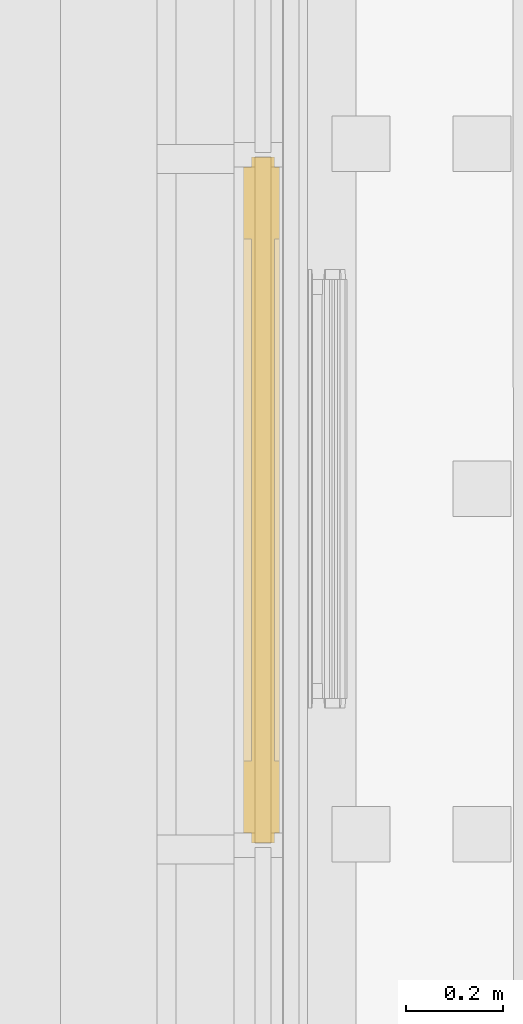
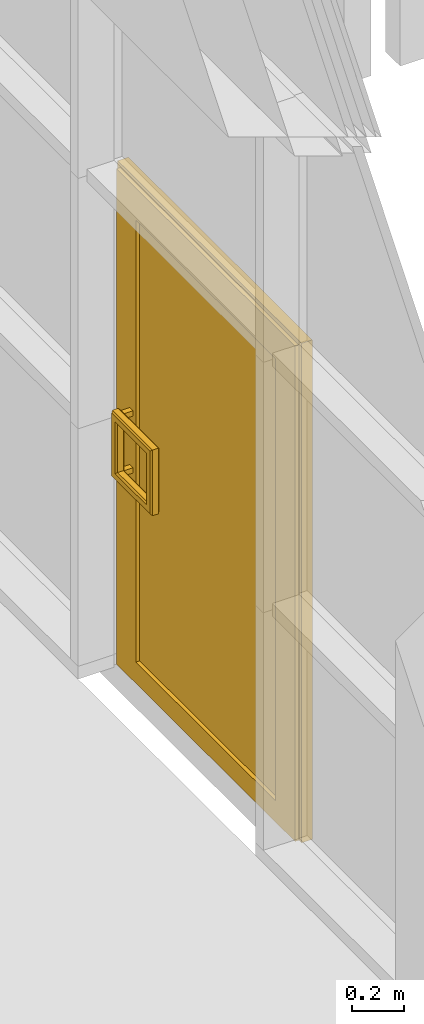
# One storey, part 252 of 260: 1 door, 1 element without a shape of its own.
"""IFC2X3 building model written with IfcOpenShell, lengths in millimetres."""

import ifcopenshell
import ifcopenshell.guid

model = None  # the IFC model being written
_history = None  # IfcOwnerHistory: only IFC2X3 demands one
_inside = {}  # id of a spatial element -> (the spatial element, [elements in it])
_under = {}  # id of a project, library or spatial element -> (it, [spatial elements below it])
_declared = {}  # id of a project -> (the project, [libraries it declares])
_typed = {}  # id of a type object -> (the type object, [elements of that type])
_made_of = {}  # id of a material, layer set ... -> (it, [elements and type objects made of it])


def new_model(schema):
    """Start an empty IFC model of exactly this schema.

    Asked for "IFC4X3", IfcOpenShell would pick the latest addendum, in which some entities
    have other attributes; the version numbers below select the first issue.
    IFC2X3 requires an IfcOwnerHistory on every rooted entity: one is made here for all.
    """
    global model, _history
    if schema == "IFC4X3":
        model = ifcopenshell.file(schema_version=(4, 3, 0, 0))
    else:
        model = ifcopenshell.file(schema=schema)
    _inside.clear()
    _under.clear()
    _declared.clear()
    _typed.clear()
    _made_of.clear()
    _history = None
    if model.schema == "IFC2X3":
        org = make("IfcOrganization", Name="unknown")
        user = make(
            "IfcPersonAndOrganization",
            ThePerson=make("IfcPerson", FamilyName="unknown"),
            TheOrganization=org,
        )
        app = make(
            "IfcApplication",
            ApplicationDeveloper=org,
            Version="unknown",
            ApplicationFullName="unknown",
            ApplicationIdentifier="unknown",
        )
        _history = make(
            "IfcOwnerHistory",
            OwningUser=user,
            OwningApplication=app,
            ChangeAction="ADDED",
            CreationDate=0,
        )
    return model


def make(cls, **values):
    """One entity of the class cls with the attributes given. An attribute that is None is left unset."""
    return model.create_entity(
        cls, **{name: value for name, value in values.items() if value is not None}
    )


def entity(cls, *values):
    """Any entity or typed value of the class cls, its attributes in the order of the schema. None: left unset."""
    e = model.create_entity(cls)
    for i, value in enumerate(values):
        if value is not None:
            e[i] = value
    return e


def rooted(cls, **values):
    """An entity with a GlobalId (a new one), such as an element, a storey or a relation."""
    return make(cls, GlobalId=ifcopenshell.guid.new(), OwnerHistory=_history, **values)


def si_unit(unit_type, name, prefix=None):
    """IfcSIUnit, for example si_unit("LENGTHUNIT", "METRE", prefix="MILLI")."""
    return make("IfcSIUnit", UnitType=unit_type, Prefix=prefix, Name=name)


def converted_unit(unit_type, name, factor, base, dimensions=None, offset=None):
    """IfcConversionBasedUnit, such as the inch: factor (a typed value) times the base unit."""
    return make(
        "IfcConversionBasedUnit"
        if offset is None
        else "IfcConversionBasedUnitWithOffset",
        ConversionOffset=offset,
        Dimensions=None
        if dimensions is None
        else entity("IfcDimensionalExponents", *dimensions),
        UnitType=unit_type,
        Name=name,
        ConversionFactor=make(
            "IfcMeasureWithUnit", ValueComponent=factor, UnitComponent=base
        ),
    )


def derived_unit(unit_type, elements):
    """IfcDerivedUnit: a product of units, each with its exponent."""
    return make(
        "IfcDerivedUnit",
        Elements=[
            make("IfcDerivedUnitElement", Unit=unit, Exponent=power)
            for unit, power in elements
        ],
        UnitType=unit_type,
    )


def money_unit(currency):
    """IfcMonetaryUnit."""
    return make("IfcMonetaryUnit", Currency=currency)


def assignment(units):
    """IfcUnitAssignment: the units of a project."""
    return None if units is None else make("IfcUnitAssignment", Units=units)


def point(xyz):
    """IfcCartesianPoint."""
    return None if xyz is None else make("IfcCartesianPoint", Coordinates=xyz)


def direction(xyz):
    """IfcDirection."""
    return None if xyz is None else make("IfcDirection", DirectionRatios=xyz)


def frame(location, z_axis=None, x_axis=None):
    """IfcAxis2Placement3D, a coordinate frame: its origin and axes. An axis left out is left unset."""
    return make(
        "IfcAxis2Placement3D",
        Location=point(location),
        Axis=direction(z_axis),
        RefDirection=direction(x_axis),
    )


def origin_with_axes():
    """The frame at (0, 0, 0) with the z axis (0, 0, 1) and the x axis (1, 0, 0) written out."""
    return frame((0.0, 0.0, 0.0), z_axis=(0.0, 0.0, 1.0), x_axis=(1.0, 0.0, 0.0))


def place(relative_to, where):
    """IfcLocalPlacement: puts the frame where relative to a parent placement (None: the world)."""
    return make(
        "IfcLocalPlacement", PlacementRelTo=relative_to, RelativePlacement=where
    )


def context(
    kind, dimensions, precision=None, world=None, true_north=None, identifier=None
):
    """IfcGeometricRepresentationContext, for example the 3D "Model" context."""
    return make(
        "IfcGeometricRepresentationContext",
        ContextIdentifier=identifier,
        ContextType=kind,
        CoordinateSpaceDimension=dimensions,
        Precision=precision,
        WorldCoordinateSystem=world,
        TrueNorth=true_north,
    )


def subcontext(parent, identifier, kind, view, scale=None):
    """IfcGeometricRepresentationSubContext, for example "Body" below "Model"."""
    return make(
        "IfcGeometricRepresentationSubContext",
        ContextIdentifier=identifier,
        ContextType=kind,
        ParentContext=parent,
        TargetScale=scale,
        TargetView=view,
    )


def project(units=None, contexts=None):
    """IfcProject with its units and contexts."""
    return rooted(
        "IfcProject",
        Name="project",
        RepresentationContexts=contexts,
        UnitsInContext=assignment(units),
    )


def spatial(cls, under=None, at=None, **own):
    """A site, building, storey or space (cls), placed at a placement, below another one or the project."""
    s = rooted(cls, ObjectPlacement=at, **own)
    if under is not None:
        _under.setdefault(under.id(), (under, []))[1].append(s)
    return s


def faces_of(points, faces, orient=None, outer=None):
    """IfcFace entities. A face is a list of loops; a loop is a list of indices into points, from 0.

    orient and outer hold one flag for each loop. By default every Orientation is true, the
    first loop of a face is its IfcFaceOuterBound and the others are IfcFaceBound.
    """
    made = []
    for i, loops in enumerate(faces):
        bounds = []
        for j, loop in enumerate(loops):
            is_outer = j == 0 if outer is None else outer[i][j]
            bounds.append(
                make(
                    "IfcFaceOuterBound" if is_outer else "IfcFaceBound",
                    Bound=make("IfcPolyLoop", Polygon=[points[k] for k in loop]),
                    Orientation=True if orient is None else orient[i][j],
                )
            )
        made.append(make("IfcFace", Bounds=bounds))
    return made


def open_shell(faces, orient=None, outer=None):
    """The faces of one IfcOpenShell. surface_model builds it on its shared points."""
    return ("IfcOpenShell", faces, orient, outer)


def faceted_brep(points, faces, orient=None, outer=None, voids=None):
    """IfcFacetedBrep: a solid bounded by flat faces; with voids (closed shells), ...WithVoids."""
    shared = [point(p) for p in points]
    hull = make("IfcClosedShell", CfsFaces=faces_of(shared, faces, orient, outer))
    if voids is None:
        return make("IfcFacetedBrep", Outer=hull)
    return make(
        "IfcFacetedBrepWithVoids",
        Outer=hull,
        Voids=[
            make(cls, CfsFaces=faces_of(shared, fs, o, b)) for cls, fs, o, b in voids
        ],
    )


def surface_model(cls, points, shells):
    """IfcFaceBasedSurfaceModel or IfcShellBasedSurfaceModel (cls): surfaces that need not close."""
    shared = [point(p) for p in points]
    made = [make(c, CfsFaces=faces_of(shared, fs, o, b)) for c, fs, o, b in shells]
    if cls == "IfcFaceBasedSurfaceModel":
        return make(cls, FbsmFaces=made)
    return make(cls, SbsmBoundary=made)


def shape(context_of_items, identifier, shape_type, items):
    """IfcShapeRepresentation: the items that make up one representation, for example the "Body"."""
    return make(
        "IfcShapeRepresentation",
        ContextOfItems=context_of_items,
        RepresentationIdentifier=identifier,
        RepresentationType=shape_type,
        Items=items,
    )


def material(Name=None, Category=None):
    """IfcMaterial."""
    return make("IfcMaterial", Name=Name, Category=Category)


def material_list(materials):
    """IfcMaterialList."""
    return make("IfcMaterialList", Materials=materials)


def made_of(thing, what):
    """Note that an element or type object is made of a material, layer set ...; save() writes the relation."""
    if what is not None:
        _made_of.setdefault(what.id(), (what, []))[1].append(thing)
    return thing


def type_object(cls, material=None, **own):
    """A type object (cls), such as IfcWallType, which elements share."""
    return made_of(rooted(cls, **own), material)


def element(
    cls,
    number,
    at=None,
    inside=None,
    cuts=None,
    type_object=None,
    material=None,
    context=None,
    identifier="Body",
    shape_type=None,
    held_by="IfcProductDefinitionShape",
    body=None,
    shapes=None,
    **own,
):
    """One element of the class cls, such as IfcWall. Its Tag is "e" and its number.

    at: its placement. inside: the storey or other place that contains it. cuts: it is an
    opening in that element (IfcRelVoidsElement). A single representation is given by context,
    identifier, shape_type and body (its items); several are given by shapes. held_by: the class
    of the entity that holds the representations. save() writes the other relations.
    """
    e = rooted(cls, Tag="e%d" % number, ObjectPlacement=at, **own)
    if body is not None:
        shapes = [shape(context, identifier, shape_type, body)]
    if shapes is not None:
        e.Representation = make(held_by, Representations=shapes)
    if inside is not None:
        _inside.setdefault(inside.id(), (inside, []))[1].append(e)
    if cuts is not None:
        rooted(
            "IfcRelVoidsElement", RelatingBuildingElement=cuts, RelatedOpeningElement=e
        )
    if type_object is not None:
        _typed.setdefault(type_object.id(), (type_object, []))[1].append(e)
    return made_of(e, material)


def aggregate(whole, parts):
    """IfcRelAggregates: a whole, such as a stair, and the parts it consists of."""
    return rooted("IfcRelAggregates", RelatingObject=whole, RelatedObjects=parts)


def save(model, path):
    """Write the relations noted so far, then the file.

    IfcRelAggregates (storeys below a building ...), IfcRelContainedInSpatialStructure (elements
    in a storey), IfcRelDefinesByType, IfcRelAssociatesMaterial and IfcRelDeclares: one each for
    every whole, place, type object, material and project.
    """
    for whole, parts in _under.values():
        aggregate(whole, parts)
    for where, things in _inside.values():
        rooted(
            "IfcRelContainedInSpatialStructure",
            RelatedElements=things,
            RelatingStructure=where,
        )
    for kind, things in _typed.values():
        rooted("IfcRelDefinesByType", RelatedObjects=things, RelatingType=kind)
    for what, things in _made_of.values():
        rooted("IfcRelAssociatesMaterial", RelatedObjects=things, RelatingMaterial=what)
    for by, libraries in _declared.values():
        rooted("IfcRelDeclares", RelatingContext=by, RelatedDefinitions=libraries)
    model.write(path)


model = new_model("IFC2X3")

# Units and contexts
model_context = context("Model", 3, precision=0.01, world=origin_with_axes(), true_north=direction((0.0, 1.0)))
body_context = subcontext(model_context, "Body", "Model", "MODEL_VIEW")
ifc_project = project(units=[si_unit("LENGTHUNIT", "METRE", prefix="MILLI"), si_unit("AREAUNIT", "SQUARE_METRE"), si_unit("VOLUMEUNIT", "CUBIC_METRE"), converted_unit("PLANEANGLEUNIT", "DEGREE", entity("IfcPlaneAngleMeasure", 0.0174532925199), si_unit("PLANEANGLEUNIT", "RADIAN"), dimensions=[0, 0, 0, 0, 0, 0, 0]), money_unit("EUR"), converted_unit("TIMEUNIT", "Year", entity("IfcTimeMeasure", 31556926.0), si_unit("TIMEUNIT", "SECOND"), dimensions=[0, 0, 1, 0, 0, 0, 0]), si_unit("MASSUNIT", "GRAM", prefix="KILO"), si_unit("THERMODYNAMICTEMPERATUREUNIT", "DEGREE_CELSIUS"), si_unit("LUMINOUSINTENSITYUNIT", "LUMEN"), si_unit("ENERGYUNIT", "JOULE", prefix="MEGA"), derived_unit("THERMALCONDUCTANCEUNIT", [(si_unit("POWERUNIT", "WATT"), 1), (si_unit("LENGTHUNIT", "METRE"), -1), (si_unit("THERMODYNAMICTEMPERATUREUNIT", "KELVIN"), -1)]), derived_unit("SPECIFICHEATCAPACITYUNIT", [(si_unit("ENERGYUNIT", "JOULE"), 1), (si_unit("MASSUNIT", "GRAM", prefix="KILO"), -1), (si_unit("THERMODYNAMICTEMPERATUREUNIT", "KELVIN"), -1)]), derived_unit("MASSDENSITYUNIT", [(si_unit("MASSUNIT", "GRAM", prefix="KILO"), 1), (si_unit("VOLUMEUNIT", "CUBIC_METRE"), -1)])], contexts=[model_context])

# Site, building, storey
site_placement = place(None, origin_with_axes())
site = spatial("IfcSite", under=ifc_project, at=site_placement, Name="Kolde pst 67a", CompositionType="ELEMENT")
building_placement = place(site_placement, origin_with_axes())
building = spatial("IfcBuilding", under=site, at=building_placement, Name="Riigigümnaasium", CompositionType="ELEMENT")
storey_placement = place(building_placement, origin_with_axes())
storey = spatial("IfcBuildingStorey", under=building, at=storey_placement, Name="1. korrus", CompositionType="ELEMENT", Elevation=0.0)

# Curtain wall, door
curtain_wall_type = type_object("IfcCurtainWallType", Name="Curtain Wall Type", PredefinedType="NOTDEFINED")
curtain_wall_placement = place(storey_placement, frame((36659.99923, 65497.2568144, -5.3341346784e-05), z_axis=(0.0, 0.0, 1.0), x_axis=(1.0, 0.0, 0.0)))
curtain_wall = element("IfcCurtainWall", 1, at=curtain_wall_placement, inside=storey, type_object=curtain_wall_type, Name="KLAASFASSAAD")
ifc_material_1 = material(Name="_METALL - alumiinium")
ifc_material_2 = material(Name="_KLAAS - kirgas, tuletõkke klaas")
ifc_material_3 = material(Name="_METALL - teras")
ifc_material_4 = material(Name="Birch")
ifc_material_list = material_list([ifc_material_1, ifc_material_2, ifc_material_3, ifc_material_4])
door_style = type_object("IfcDoorStyle", Name="1420 x 1175 x 48", ConstructionType="NOTDEFINED", OperationType="SINGLE_SWING_RIGHT", ParameterTakesPrecedence=False, Sizeable=False)
door_placement = place(curtain_wall_placement, frame((0.0, -1425.2233959, 1180.00003556), z_axis=(0.0, 0.0, 1.0), x_axis=(0.0, -1.0, 0.0)))
door = element("IfcDoor", 2, at=door_placement, type_object=door_style, material=ifc_material_list, Name="Ühepoolne välisuks", ObjectType="DOOR", OverallHeight=2335.0, OverallWidth=1380.0, context=body_context, shape_type="SurfaceModel", body=[
    surface_model("IfcShellBasedSurfaceModel", [(690.00000553, -41.0, -1180.00003556), (690.00000553, -41.0, 1155.00002794), (590.00000553, -41.0, 1055.00002794), (590.00000553, -41.0, -1180.00003556)], [open_shell([[[0, 1, 2, 3]]])]),
    surface_model("IfcShellBasedSurfaceModel", [(-690.000010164, -41.0, 1155.00002794), (-590.000010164, -41.0, 1055.00002794), (590.00000553, -41.0, 1055.00002794), (690.00000553, -41.0, 1155.00002794)], [open_shell([[[0, 1, 2, 3]]])]),
    surface_model("IfcShellBasedSurfaceModel", [(-690.000010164, -41.0, -1180.00003556), (-590.000010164, -41.0, -1180.00003556), (-590.000010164, -41.0, 1055.00002794), (-690.000010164, -41.0, 1155.00002794)], [open_shell([[[0, 1, 2, 3]]])]),
    faceted_brep([(690.00000553, -41.0, -1180.00003556), (690.00000553, 34.0, -1180.00003556), (690.00000553, 34.0, 1155.00002794), (690.00000553, -41.0, 1155.00002794), (620.00000553, -41.0, -1180.00003556), (620.00000553, 34.0, -1180.00003556), (620.00000553, 34.0, 1085.00002794), (620.00000553, -41.0, 1085.00002794)], [[[0, 1, 2, 3]], [[4, 5, 1, 0]], [[1, 5, 6, 2]], [[3, 2, 6, 7]], [[0, 3, 7, 4]], [[7, 6, 5, 4]]]),
    faceted_brep([(-690.000010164, -41.0, 1155.00002794), (-690.000010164, 34.0, 1155.00002794), (-620.000010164, 34.0, 1085.00002794), (-620.000010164, -41.0, 1085.00002794), (690.00000553, -41.0, 1155.00002794), (690.00000553, 34.0, 1155.00002794), (620.00000553, 34.0, 1085.00002794), (620.00000553, -41.0, 1085.00002794)], [[[0, 1, 2, 3]], [[4, 5, 1, 0]], [[1, 5, 6, 2]], [[3, 2, 6, 7]], [[0, 3, 7, 4]], [[7, 6, 5, 4]]]),
    faceted_brep([(-690.000010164, -41.0, -1180.00003556), (-690.000010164, 34.0, -1180.00003556), (-620.000010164, 34.0, -1180.00003556), (-620.000010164, -41.0, -1180.00003556), (-690.000010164, -41.0, 1155.00002794), (-690.000010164, 34.0, 1155.00002794), (-620.000010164, 34.0, 1085.00002794), (-620.000010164, -41.0, 1085.00002794)], [[[0, 1, 2, 3]], [[4, 5, 1, 0]], [[1, 5, 6, 2]], [[3, 2, 6, 7]], [[0, 3, 7, 4]], [[7, 6, 5, 4]]]),
    faceted_brep([(620.00000553, -41.0, -1180.00003556), (620.00000553, 34.0, -1180.00003556), (620.00000553, 34.0, -1160.00003556), (620.00000553, -41.0, -1160.00003556), (-620.000010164, -41.0, -1180.00003556), (-620.000010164, 34.0, -1180.00003556), (-620.000010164, 34.0, -1160.00003556), (-620.000010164, -41.0, -1160.00003556)], [[[0, 1, 2, 3]], [[4, 5, 1, 0]], [[1, 5, 6, 2]], [[3, 2, 6, 7]], [[0, 3, 7, 4]], [[7, 6, 5, 4]]]),
    faceted_brep([(709.999983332, -24.0, -1180.00003556), (709.999983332, 24.0, -1180.00003556), (709.999983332, 24.0, 1175.00000575), (709.999983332, -24.0, 1175.00000575), (690.00000553, -24.0, -1180.00003556), (690.00000553, 24.0, -1180.00003556), (690.00000553, 24.0, 1155.00002794), (690.00000553, -24.0, 1155.00002794)], [[[0, 1, 2, 3]], [[4, 5, 1, 0]], [[1, 5, 6, 2]], [[3, 2, 6, 7]], [[0, 3, 7, 4]], [[7, 6, 5, 4]]]),
    faceted_brep([(709.999983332, -24.0, 1175.00000575), (709.999983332, 24.0, 1175.00000575), (-709.999987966, 24.0, 1175.00000575), (-709.999987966, -24.0, 1175.00000575), (690.00000553, -24.0, 1155.00002794), (690.00000553, 24.0, 1155.00002794), (-690.000010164, 24.0, 1155.00002794), (-690.000010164, -24.0, 1155.00002794)], [[[0, 1, 2, 3]], [[4, 5, 1, 0]], [[1, 5, 6, 2]], [[3, 2, 6, 7]], [[0, 3, 7, 4]], [[7, 6, 5, 4]]]),
    faceted_brep([(-709.999987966, -24.0, 1175.00000575), (-709.999987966, 24.0, 1175.00000575), (-709.999987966, 24.0, -1180.00003556), (-709.999987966, -24.0, -1180.00003556), (-690.000010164, -24.0, 1155.00002794), (-690.000010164, 24.0, 1155.00002794), (-690.000010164, 24.0, -1180.00003556), (-690.000010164, -24.0, -1180.00003556)], [[[0, 1, 2, 3]], [[4, 5, 1, 0]], [[1, 5, 6, 2]], [[3, 2, 6, 7]], [[0, 3, 7, 4]], [[7, 6, 5, 4]]]),
    faceted_brep([(-540.000010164, -41.0, -1080.00003556), (-540.000010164, 34.0, -1080.00003556), (-540.000010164, 34.0, 1005.00002794), (-540.000010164, -41.0, 1005.00002794), (-620.000010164, -41.0, -1160.00003556), (-620.000010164, 34.0, -1160.00003556), (-620.000010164, 34.0, 1085.00002794), (-620.000010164, -41.0, 1085.00002794)], [[[0, 1, 2, 3]], [[4, 5, 1, 0]], [[1, 5, 6, 2]], [[3, 2, 6, 7]], [[0, 3, 7, 4]], [[7, 6, 5, 4]]]),
    faceted_brep([(620.00000553, -41.0, -1160.00003556), (620.00000553, 34.0, -1160.00003556), (620.00000553, 34.0, 1085.00002794), (620.00000553, -41.0, 1085.00002794), (540.00000553, -41.0, -1080.00003556), (540.00000553, 34.0, -1080.00003556), (540.00000553, 34.0, 1005.00002794), (540.00000553, -41.0, 1005.00002794)], [[[0, 1, 2, 3]], [[4, 5, 1, 0]], [[1, 5, 6, 2]], [[3, 2, 6, 7]], [[0, 3, 7, 4]], [[7, 6, 5, 4]]]),
    faceted_brep([(620.00000553, -41.0, -1160.00003556), (620.00000553, 34.0, -1160.00003556), (540.00000553, 34.0, -1080.00003556), (540.00000553, -41.0, -1080.00003556), (-620.000010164, -41.0, -1160.00003556), (-620.000010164, 34.0, -1160.00003556), (-540.000010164, 34.0, -1080.00003556), (-540.000010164, -41.0, -1080.00003556)], [[[0, 1, 2, 3]], [[4, 5, 1, 0]], [[1, 5, 6, 2]], [[3, 2, 6, 7]], [[0, 3, 7, 4]], [[7, 6, 5, 4]]]),
    faceted_brep([(-620.000010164, -41.0, 1085.00002794), (-620.000010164, 34.0, 1085.00002794), (-540.000010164, 34.0, 1005.00002794), (-540.000010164, -41.0, 1005.00002794), (620.00000553, -41.0, 1085.00002794), (620.00000553, 34.0, 1085.00002794), (540.00000553, 34.0, 1005.00002794), (540.00000553, -41.0, 1005.00002794)], [[[0, 1, 2, 3]], [[4, 5, 1, 0]], [[1, 5, 6, 2]], [[3, 2, 6, 7]], [[0, 3, 7, 4]], [[7, 6, 5, 4]]]),
    faceted_brep([(-540.000010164, -24.0, -1080.00003556), (-540.000010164, 24.0, -1080.00003556), (540.00000553, 24.0, -1080.00003556), (540.00000553, -24.0, -1080.00003556), (-540.000010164, -24.0, 1005.00002794), (-540.000010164, 24.0, 1005.00002794), (540.00000553, 24.0, 1005.00002794), (540.00000553, -24.0, 1005.00002794)], [[[0, 1, 2, 3]], [[4, 5, 1, 0]], [[1, 5, 6, 2]], [[3, 2, 6, 7]], [[0, 3, 7, 4]], [[7, 6, 5, 4]]]),
    faceted_brep([(-562.500010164, 34.0, -177.050035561), (-562.500010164, 74.0, -177.050035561), (-587.500010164, 74.0, -177.050035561), (-587.500010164, 34.0, -177.050035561), (-562.500010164, 34.0, -202.050035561), (-562.500010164, 74.0, -202.050035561), (-587.500010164, 74.0, -202.050035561), (-587.500010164, 34.0, -202.050035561)], [[[0, 1, 2, 3]], [[4, 5, 1, 0]], [[1, 5, 6, 2]], [[3, 2, 6, 7]], [[0, 3, 7, 4]], [[7, 6, 5, 4]]]),
    faceted_brep([(-562.050010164, 34.0, 67.0499644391), (-562.050010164, 74.0, 67.0499644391), (-562.050010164, 74.0, 92.0499644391), (-562.050010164, 34.0, 92.0499644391), (-587.050010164, 34.0, 67.0499644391), (-587.050010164, 74.0, 67.0499644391), (-587.050010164, 74.0, 92.0499644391), (-587.050010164, 34.0, 92.0499644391)], [[[0, 1, 2, 3]], [[4, 5, 1, 0]], [[1, 5, 6, 2]], [[3, 2, 6, 7]], [[0, 3, 7, 4]], [[7, 6, 5, 4]]]),
    faceted_brep([(-305.000010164, 74.0, -190.000035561), (-305.000010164, 99.0, -190.000035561), (-305.000010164, 99.0, 79.9999644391), (-305.000010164, 74.0, 79.9999644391), (-575.000010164, 74.0, -190.000035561), (-575.000010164, 99.0, -190.000035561), (-575.000010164, 99.0, 79.9999644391), (-310.000010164, 99.0, -185.000035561), (-310.000010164, 99.0, 74.9999644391), (-570.000010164, 99.0, 74.9999644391), (-570.000010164, 99.0, -185.000035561), (-575.000010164, 74.0, 79.9999644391), (-310.000010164, 74.0, -185.000035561), (-570.000010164, 74.0, -185.000035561), (-570.000010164, 74.0, 74.9999644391), (-310.000010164, 74.0, 74.9999644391)], [[[0, 1, 2, 3]], [[4, 5, 1, 0]], [[1, 5, 6, 2], [7, 8, 9, 10]], [[3, 2, 6, 11]], [[0, 3, 11, 4], [12, 13, 14, 15]], [[11, 6, 5, 4]], [[15, 8, 7, 12]], [[14, 9, 8, 15]], [[13, 10, 9, 14]], [[12, 7, 10, 13]]]),
    faceted_brep([(-325.000010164, 81.05, -185.000035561), (-325.000010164, 81.05, -170.000035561), (-317.950010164, 74.0, -177.050035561), (-317.950010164, 74.0, -185.000035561), (-325.000010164, 99.0, -185.000035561), (-325.000010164, 99.0, -190.000035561), (-325.000010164, 81.05, -190.000035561), (-325.000010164, 81.05, -210.000035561), (-325.000010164, 106.95, -210.000035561), (-325.000010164, 106.95, -170.000035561), (-570.000010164, 74.0, -177.050035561), (-570.000010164, 81.05, -170.000035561), (-570.000010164, 74.0, -185.000035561), (-570.000010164, 99.0, -185.000035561), (-570.000010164, 99.0, -170.000035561), (-575.000010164, 99.0, -170.000035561), (-575.000010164, 99.0, -190.000035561), (-575.000010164, 74.0, -190.000035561), (-317.950010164, 74.0, -190.000035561), (-317.950010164, 74.0, -202.950035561), (-595.000010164, 81.05, -210.000035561), (-595.000010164, 106.95, -210.000035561), (-317.950010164, 114.0, -202.950035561), (-317.950010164, 114.0, -177.050035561), (-595.000010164, 106.95, -170.000035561), (-595.000010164, 81.05, -170.000035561), (-575.000010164, 81.05, -170.000035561), (-575.000010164, 74.0, -177.050035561), (-587.950010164, 74.0, -177.050035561), (-587.950010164, 74.0, -202.950035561), (-587.950010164, 114.0, -202.950035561), (-587.950010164, 114.0, -177.050035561)], [[[0, 1, 2, 3]], [[4, 5, 6, 7, 8, 9, 1, 0]], [[10, 2, 1, 11]], [[12, 3, 2, 10]], [[12, 13, 4, 0, 3]], [[4, 13, 14, 15, 16, 5]], [[6, 5, 16, 17, 18]], [[18, 19, 7, 6]], [[20, 21, 8, 7]], [[8, 22, 23, 9]], [[15, 14, 11, 1, 9, 24, 25, 26]], [[14, 13, 12, 10, 11]], [[26, 27, 17, 16, 15]], [[17, 27, 28, 29, 19, 18]], [[29, 20, 7, 19]], [[20, 25, 24, 21]], [[21, 30, 22, 8]], [[30, 31, 23, 22]], [[31, 24, 9, 23]], [[26, 25, 28, 27]], [[29, 28, 25, 20]], [[24, 31, 30, 21]]]),
    faceted_brep([(-570.000010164, 74.0, -177.050035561), (-562.050010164, 74.0, -177.050035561), (-562.050010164, 74.0, 67.0499644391), (-570.000010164, 74.0, 67.0499644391), (-570.000010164, 81.05, -170.000035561), (-555.000010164, 81.05, -170.000035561), (-555.000010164, 81.05, 59.9999644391), (-570.000010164, 81.05, 59.9999644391), (-570.000010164, 99.0, 59.9999644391), (-570.000010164, 99.0, -170.000035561), (-575.000010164, 99.0, -170.000035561), (-575.000010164, 81.05, -170.000035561), (-595.000010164, 81.05, -170.000035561), (-595.000010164, 106.95, -170.000035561), (-555.000010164, 106.95, -170.000035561), (-555.000010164, 106.95, 59.9999644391), (-575.000010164, 99.0, 59.9999644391), (-595.000010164, 106.95, 59.9999644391), (-595.000010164, 81.05, 59.9999644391), (-575.000010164, 81.05, 59.9999644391), (-575.000010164, 74.0, -177.050035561), (-575.000010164, 74.0, 67.0499644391), (-587.950010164, 74.0, -177.050035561), (-587.950010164, 114.0, -177.050035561), (-562.050010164, 114.0, -177.050035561), (-562.050010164, 114.0, 67.0499644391), (-587.950010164, 114.0, 67.0499644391), (-587.950010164, 74.0, 67.0499644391)], [[[0, 1, 2, 3]], [[4, 5, 1, 0]], [[6, 2, 1, 5]], [[3, 2, 6, 7]], [[7, 8, 9, 4, 0, 3]], [[9, 10, 11, 12, 13, 14, 5, 4]], [[15, 6, 5, 14]], [[16, 8, 7, 6, 15, 17, 18, 19]], [[16, 10, 9, 8]], [[20, 11, 10, 16, 19, 21]], [[20, 22, 12, 11]], [[18, 17, 13, 12]], [[13, 23, 24, 14]], [[25, 15, 14, 24]], [[26, 17, 15, 25]], [[19, 18, 27, 21]], [[21, 27, 22, 20]], [[27, 18, 12, 22]], [[17, 26, 23, 13]], [[26, 25, 24, 23]]]),
    faceted_brep([(-575.000010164, 74.0, 79.9999644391), (-305.000010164, 74.0, 79.9999644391), (-305.000010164, 74.0, 67.0499644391), (-292.050010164, 74.0, 67.0499644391), (-292.050010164, 74.0, 92.9499644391), (-587.950010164, 74.0, 92.9499644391), (-587.950010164, 74.0, 67.0499644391), (-575.000010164, 74.0, 67.0499644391), (-575.000010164, 99.0, 79.9999644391), (-305.000010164, 99.0, 79.9999644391), (-305.000010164, 99.0, 59.9999644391), (-305.000010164, 81.05, 59.9999644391), (-285.000010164, 81.05, 59.9999644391), (-285.000010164, 81.05, 99.9999644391), (-595.000010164, 81.05, 99.9999644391), (-595.000010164, 81.05, 59.9999644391), (-575.000010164, 81.05, 59.9999644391), (-575.000010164, 99.0, 59.9999644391), (-570.000010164, 99.0, 59.9999644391), (-570.000010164, 99.0, 74.9999644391), (-310.000010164, 99.0, 74.9999644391), (-310.000010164, 99.0, 59.9999644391), (-310.000010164, 81.05, 59.9999644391), (-570.000010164, 81.05, 59.9999644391), (-595.000010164, 106.95, 59.9999644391), (-285.000010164, 106.95, 59.9999644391), (-285.000010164, 106.95, 99.9999644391), (-595.000010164, 106.95, 99.9999644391), (-570.000010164, 74.0, 74.9999644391), (-570.000010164, 74.0, 67.0499644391), (-310.000010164, 74.0, 74.9999644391), (-310.000010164, 74.0, 67.0499644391), (-292.050010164, 114.0, 67.0499644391), (-587.950010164, 114.0, 67.0499644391), (-292.050010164, 114.0, 92.9499644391), (-587.950010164, 114.0, 92.9499644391)], [[[0, 1, 2, 3, 4, 5, 6, 7]], [[0, 8, 9, 1]], [[1, 9, 10, 11, 2]], [[11, 12, 3, 2]], [[3, 12, 13, 4]], [[4, 13, 14, 5]], [[15, 6, 5, 14]], [[7, 6, 15, 16]], [[7, 16, 17, 8, 0]], [[10, 9, 8, 17, 18, 19, 20, 21]], [[10, 21, 22, 23, 18, 17, 16, 15, 24, 25, 12, 11]], [[12, 25, 26, 13]], [[13, 26, 27, 14]], [[24, 15, 14, 27]], [[28, 19, 18, 23, 29]], [[30, 20, 19, 28]], [[31, 22, 21, 20, 30]], [[31, 29, 23, 22]], [[32, 25, 24, 33]], [[25, 32, 34, 26]], [[26, 34, 35, 27]], [[24, 27, 35, 33]], [[30, 28, 29, 31]], [[34, 32, 33, 35]]]),
    faceted_brep([(-317.950010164, 74.0, -190.000035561), (-317.950010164, 74.0, -202.950035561), (-292.050010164, 74.0, -202.950035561), (-292.050010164, 74.0, 67.0499644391), (-305.000010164, 74.0, 67.0499644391), (-305.000010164, 74.0, -190.000035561), (-325.000010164, 81.05, -190.000035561), (-325.000010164, 81.05, -210.000035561), (-285.000010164, 81.05, -210.000035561), (-285.000010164, 81.05, 59.9999644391), (-305.000010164, 81.05, 59.9999644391), (-305.000010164, 99.0, 59.9999644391), (-305.000010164, 99.0, -190.000035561), (-325.000010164, 99.0, -190.000035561), (-325.000010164, 99.0, -185.000035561), (-325.000010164, 81.05, -185.000035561), (-325.000010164, 81.05, 59.9999644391), (-325.000010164, 106.95, 59.9999644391), (-325.000010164, 106.95, -210.000035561), (-285.000010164, 106.95, -210.000035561), (-285.000010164, 106.95, 59.9999644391), (-310.000010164, 99.0, 59.9999644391), (-310.000010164, 81.05, 59.9999644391), (-310.000010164, 99.0, -185.000035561), (-317.950010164, 74.0, -185.000035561), (-310.000010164, 74.0, -185.000035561), (-317.950010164, 74.0, 67.0499644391), (-317.950010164, 114.0, -202.950035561), (-317.950010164, 114.0, 67.0499644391), (-292.050010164, 114.0, -202.950035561), (-292.050010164, 114.0, 67.0499644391), (-310.000010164, 74.0, 67.0499644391)], [[[0, 1, 2, 3, 4, 5]], [[6, 7, 1, 0]], [[7, 8, 2, 1]], [[2, 8, 9, 3]], [[4, 3, 9, 10]], [[10, 11, 12, 5, 4]], [[5, 12, 13, 6, 0]], [[13, 14, 15, 16, 17, 18, 7, 6]], [[18, 19, 8, 7]], [[8, 19, 20, 9]], [[21, 11, 10, 9, 20, 17, 16, 22]], [[21, 23, 14, 13, 12, 11]], [[24, 15, 14, 23, 25]], [[24, 26, 16, 15]], [[27, 18, 17, 28]], [[27, 29, 19, 18]], [[19, 29, 30, 20]], [[28, 17, 20, 30]], [[22, 16, 26, 31]], [[25, 23, 21, 22, 31]], [[25, 31, 26, 24]], [[29, 27, 28, 30]]]),
    faceted_brep([(-562.500010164, -41.0, -177.050035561), (-587.500010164, -41.0, -177.050035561), (-587.500010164, -81.0, -177.050035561), (-562.500010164, -81.0, -177.050035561), (-562.500010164, -41.0, -202.050035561), (-587.500010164, -41.0, -202.050035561), (-587.500010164, -81.0, -202.050035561), (-562.500010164, -81.0, -202.050035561)], [[[0, 1, 2, 3]], [[0, 4, 5, 1]], [[1, 5, 6, 2]], [[3, 2, 6, 7]], [[4, 0, 3, 7]], [[5, 4, 7, 6]]]),
    faceted_brep([(-562.050010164, -41.0, 67.0499644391), (-562.050010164, -41.0, 92.0499644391), (-562.050010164, -81.0, 92.0499644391), (-562.050010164, -81.0, 67.0499644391), (-587.050010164, -41.0, 67.0499644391), (-587.050010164, -41.0, 92.0499644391), (-587.050010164, -81.0, 92.0499644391), (-587.050010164, -81.0, 67.0499644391)], [[[0, 1, 2, 3]], [[0, 4, 5, 1]], [[1, 5, 6, 2]], [[3, 2, 6, 7]], [[4, 0, 3, 7]], [[5, 4, 7, 6]]]),
    faceted_brep([(-305.000010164, -81.0, -190.000035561), (-305.000010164, -81.0, 79.9999644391), (-305.000010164, -106.0, 79.9999644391), (-305.000010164, -106.0, -190.000035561), (-575.000010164, -81.0, -190.000035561), (-575.000010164, -81.0, 79.9999644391), (-310.000010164, -81.0, -185.000035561), (-310.000010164, -81.0, 74.9999644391), (-570.000010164, -81.0, 74.9999644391), (-570.000010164, -81.0, -185.000035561), (-575.000010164, -106.0, 79.9999644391), (-575.000010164, -106.0, -190.000035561), (-310.000010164, -106.0, -185.000035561), (-570.000010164, -106.0, -185.000035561), (-570.000010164, -106.0, 74.9999644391), (-310.000010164, -106.0, 74.9999644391)], [[[0, 1, 2, 3]], [[0, 4, 5, 1], [6, 7, 8, 9]], [[1, 5, 10, 2]], [[3, 2, 10, 11], [12, 13, 14, 15]], [[4, 0, 3, 11]], [[5, 4, 11, 10]], [[7, 6, 12, 15]], [[8, 7, 15, 14]], [[9, 8, 14, 13]], [[6, 9, 13, 12]]]),
    faceted_brep([(-325.000010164, -88.05, -185.000035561), (-317.950010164, -81.0, -185.000035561), (-317.950010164, -81.0, -177.050035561), (-325.000010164, -88.05, -170.000035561), (-570.000010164, -81.0, -185.000035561), (-325.000010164, -106.0, -185.000035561), (-570.000010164, -106.0, -185.000035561), (-570.000010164, -81.0, -177.050035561), (-570.000010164, -88.05, -170.000035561), (-325.000010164, -113.95, -170.000035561), (-325.000010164, -113.95, -210.000035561), (-325.000010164, -88.05, -210.000035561), (-325.000010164, -88.05, -190.000035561), (-325.000010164, -106.0, -190.000035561), (-575.000010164, -106.0, -190.000035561), (-575.000010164, -106.0, -170.000035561), (-570.000010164, -106.0, -170.000035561), (-575.000010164, -88.05, -170.000035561), (-595.000010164, -88.05, -170.000035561), (-595.000010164, -113.95, -170.000035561), (-317.950010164, -121.0, -177.050035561), (-317.950010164, -121.0, -202.950035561), (-595.000010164, -88.05, -210.000035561), (-595.000010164, -113.95, -210.000035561), (-317.950010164, -81.0, -190.000035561), (-317.950010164, -81.0, -202.950035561), (-575.000010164, -81.0, -190.000035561), (-575.000010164, -81.0, -177.050035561), (-587.950010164, -81.0, -177.050035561), (-587.950010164, -121.0, -177.050035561), (-587.950010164, -121.0, -202.950035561), (-587.950010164, -81.0, -202.950035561)], [[[0, 1, 2, 3]], [[4, 1, 0, 5, 6]], [[4, 7, 2, 1]], [[7, 8, 3, 2]], [[5, 0, 3, 9, 10, 11, 12, 13]], [[5, 13, 14, 15, 16, 6]], [[16, 8, 7, 4, 6]], [[15, 17, 18, 19, 9, 3, 8, 16]], [[10, 9, 20, 21]], [[22, 11, 10, 23]], [[24, 12, 11, 25]], [[12, 24, 26, 14, 13]], [[17, 15, 14, 26, 27]], [[17, 27, 28, 18]], [[22, 23, 19, 18]], [[29, 20, 9, 19]], [[30, 21, 20, 29]], [[23, 10, 21, 30]], [[31, 25, 11, 22]], [[26, 24, 25, 31, 28, 27]], [[31, 22, 18, 28]], [[19, 23, 30, 29]]]),
    faceted_brep([(-570.000010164, -81.0, -177.050035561), (-570.000010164, -81.0, 67.0499644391), (-562.050010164, -81.0, 67.0499644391), (-562.050010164, -81.0, -177.050035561), (-570.000010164, -88.05, 59.9999644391), (-570.000010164, -88.05, -170.000035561), (-570.000010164, -106.0, -170.000035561), (-570.000010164, -106.0, 59.9999644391), (-555.000010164, -88.05, 59.9999644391), (-555.000010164, -88.05, -170.000035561), (-555.000010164, -113.95, -170.000035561), (-595.000010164, -113.95, -170.000035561), (-595.000010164, -88.05, -170.000035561), (-575.000010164, -88.05, -170.000035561), (-575.000010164, -106.0, -170.000035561), (-575.000010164, -106.0, 59.9999644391), (-575.000010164, -88.05, 59.9999644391), (-595.000010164, -88.05, 59.9999644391), (-595.000010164, -113.95, 59.9999644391), (-555.000010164, -113.95, 59.9999644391), (-562.050010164, -121.0, -177.050035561), (-587.950010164, -121.0, -177.050035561), (-575.000010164, -81.0, -177.050035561), (-587.950010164, -81.0, -177.050035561), (-575.000010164, -81.0, 67.0499644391), (-587.950010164, -81.0, 67.0499644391), (-587.950010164, -121.0, 67.0499644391), (-562.050010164, -121.0, 67.0499644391)], [[[0, 1, 2, 3]], [[4, 1, 0, 5, 6, 7]], [[1, 4, 8, 2]], [[8, 9, 3, 2]], [[5, 0, 3, 9]], [[6, 5, 9, 10, 11, 12, 13, 14]], [[15, 7, 6, 14]], [[15, 16, 17, 18, 19, 8, 4, 7]], [[19, 10, 9, 8]], [[11, 10, 20, 21]], [[17, 12, 11, 18]], [[22, 13, 12, 23]], [[22, 24, 16, 15, 14, 13]], [[16, 24, 25, 17]], [[26, 27, 19, 18]], [[27, 20, 10, 19]], [[26, 21, 20, 27]], [[18, 11, 21, 26]], [[25, 23, 12, 17]], [[24, 22, 23, 25]]]),
    faceted_brep([(-575.000010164, -81.0, 79.9999644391), (-575.000010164, -81.0, 67.0499644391), (-587.950010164, -81.0, 67.0499644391), (-587.950010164, -81.0, 92.9499644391), (-292.050010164, -81.0, 92.9499644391), (-292.050010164, -81.0, 67.0499644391), (-305.000010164, -81.0, 67.0499644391), (-305.000010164, -81.0, 79.9999644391), (-575.000010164, -106.0, 79.9999644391), (-575.000010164, -106.0, 59.9999644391), (-575.000010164, -88.05, 59.9999644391), (-595.000010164, -88.05, 59.9999644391), (-595.000010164, -88.05, 99.9999644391), (-285.000010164, -88.05, 99.9999644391), (-285.000010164, -88.05, 59.9999644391), (-305.000010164, -88.05, 59.9999644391), (-305.000010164, -106.0, 59.9999644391), (-305.000010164, -106.0, 79.9999644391), (-310.000010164, -106.0, 59.9999644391), (-310.000010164, -106.0, 74.9999644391), (-570.000010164, -106.0, 74.9999644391), (-570.000010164, -106.0, 59.9999644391), (-285.000010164, -113.95, 59.9999644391), (-595.000010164, -113.95, 59.9999644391), (-570.000010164, -88.05, 59.9999644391), (-310.000010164, -88.05, 59.9999644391), (-595.000010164, -113.95, 99.9999644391), (-285.000010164, -113.95, 99.9999644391), (-310.000010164, -81.0, 67.0499644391), (-310.000010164, -81.0, 74.9999644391), (-570.000010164, -81.0, 74.9999644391), (-570.000010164, -81.0, 67.0499644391), (-292.050010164, -121.0, 67.0499644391), (-587.950010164, -121.0, 67.0499644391), (-587.950010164, -121.0, 92.9499644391), (-292.050010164, -121.0, 92.9499644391)], [[[0, 1, 2, 3, 4, 5, 6, 7]], [[1, 0, 8, 9, 10]], [[1, 10, 11, 2]], [[11, 12, 3, 2]], [[4, 3, 12, 13]], [[5, 4, 13, 14]], [[15, 6, 5, 14]], [[7, 6, 15, 16, 17]], [[0, 7, 17, 8]], [[16, 18, 19, 20, 21, 9, 8, 17]], [[16, 15, 14, 22, 23, 11, 10, 9, 21, 24, 25, 18]], [[23, 26, 12, 11]], [[13, 12, 26, 27]], [[14, 13, 27, 22]], [[28, 29, 19, 18, 25]], [[29, 30, 20, 19]], [[30, 31, 24, 21, 20]], [[32, 33, 23, 22]], [[28, 25, 24, 31]], [[23, 33, 34, 26]], [[27, 26, 34, 35]], [[22, 27, 35, 32]], [[29, 28, 31, 30]], [[35, 34, 33, 32]]]),
    faceted_brep([(-317.950010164, -81.0, -190.000035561), (-305.000010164, -81.0, -190.000035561), (-305.000010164, -81.0, 67.0499644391), (-292.050010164, -81.0, 67.0499644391), (-292.050010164, -81.0, -202.950035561), (-317.950010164, -81.0, -202.950035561), (-325.000010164, -88.05, -190.000035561), (-325.000010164, -106.0, -190.000035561), (-305.000010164, -106.0, -190.000035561), (-305.000010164, -88.05, 59.9999644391), (-305.000010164, -106.0, 59.9999644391), (-285.000010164, -88.05, 59.9999644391), (-285.000010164, -88.05, -210.000035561), (-325.000010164, -88.05, -210.000035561), (-325.000010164, -113.95, -210.000035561), (-325.000010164, -113.95, 59.9999644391), (-325.000010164, -88.05, 59.9999644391), (-325.000010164, -88.05, -185.000035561), (-325.000010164, -106.0, -185.000035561), (-310.000010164, -106.0, 59.9999644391), (-310.000010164, -106.0, -185.000035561), (-310.000010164, -88.05, 59.9999644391), (-285.000010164, -113.95, 59.9999644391), (-285.000010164, -113.95, -210.000035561), (-317.950010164, -121.0, -202.950035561), (-317.950010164, -121.0, 67.0499644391), (-317.950010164, -81.0, -185.000035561), (-317.950010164, -81.0, 67.0499644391), (-310.000010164, -81.0, -185.000035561), (-310.000010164, -81.0, 67.0499644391), (-292.050010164, -121.0, 67.0499644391), (-292.050010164, -121.0, -202.950035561)], [[[0, 1, 2, 3, 4, 5]], [[1, 0, 6, 7, 8]], [[9, 2, 1, 8, 10]], [[2, 9, 11, 3]], [[4, 3, 11, 12]], [[13, 5, 4, 12]], [[6, 0, 5, 13]], [[7, 6, 13, 14, 15, 16, 17, 18]], [[19, 10, 8, 7, 18, 20]], [[19, 21, 16, 15, 22, 11, 9, 10]], [[12, 11, 22, 23]], [[14, 13, 12, 23]], [[24, 25, 15, 14]], [[26, 17, 16, 27]], [[26, 28, 20, 18, 17]], [[28, 29, 21, 19, 20]], [[21, 29, 27, 16]], [[25, 30, 22, 15]], [[23, 22, 30, 31]], [[24, 14, 23, 31]], [[31, 30, 25, 24]], [[28, 26, 27, 29]]]),
])
aggregate(curtain_wall, [door])

save(model, "model.ifc")
